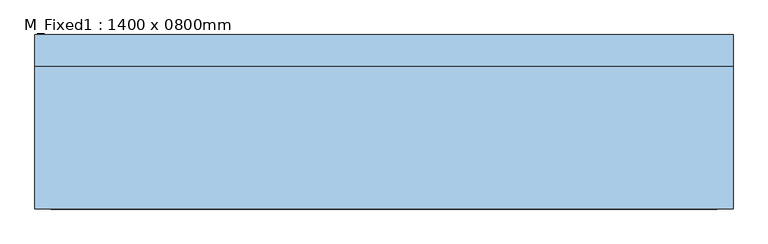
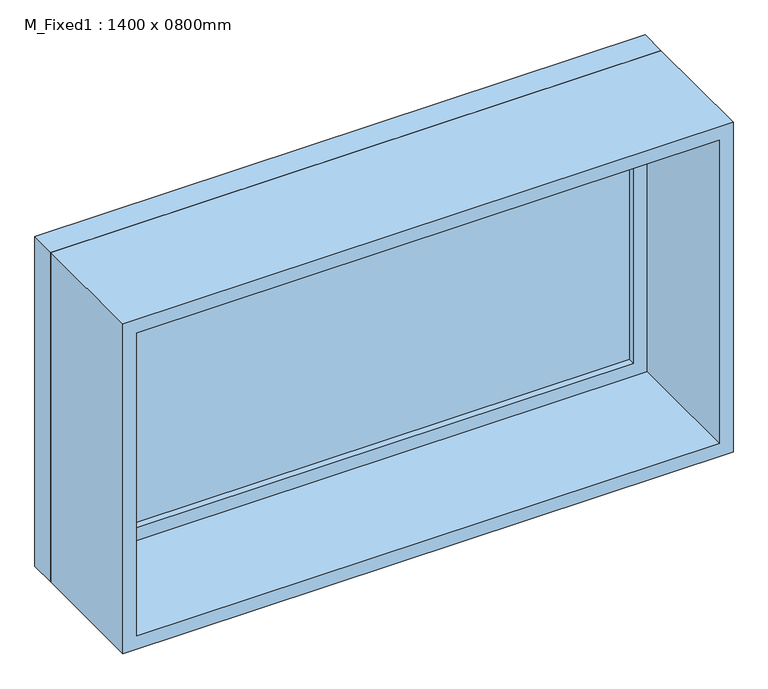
"""IFC4 building model written with IfcOpenShell, lengths in millimetres: window geometry, M_Fixed1 : 1400 x 0800mm."""

from ifc_helpers import new_model, si_unit, frame, origin, place, context, project, spatial, polyline, outline, extrude, source, transform, mapped, element, save


def m_fixed1_1400_x_0800mm_a23a53e8(model_context):
    return source(origin(), model_context, "Body", "SweptSolid", [
        extrude(outline(polyline([(-637.0, 153.0), (637.0, 153.0), (637.0, 141.0), (-637.0, 141.0), (-637.0, 153.0)])), frame((0.0, 0.0, 978.0), z_axis=(0.0, 0.0, 1.0), x_axis=(1.0, 0.0, 0.0)), (0.0, 0.0, 1.0), 674.0),
        extrude(outline(polyline([(1696.0, -681.0), (934.0, -681.0), (934.0, 681.0), (1696.0, 681.0), (1696.0, -681.0)]), holes=[polyline([(1652.0, -637.0), (1652.0, 637.0), (978.0, 637.0), (978.0, -637.0), (1652.0, -637.0)])]), frame((0.0, 125.0, 0.0), z_axis=(0.0, 1.0, 0.0), x_axis=(0.0, 0.0, 1.0)), (0.0, 0.0, 1.0), 44.0),
        extrude(outline(polyline([(1715.0, -700.0), (915.0, -700.0), (915.0, 700.0), (1715.0, 700.0), (1715.0, -700.0)]), holes=[polyline([(1696.0, -681.0), (1696.0, 681.0), (934.0, 681.0), (934.0, -681.0), (1696.0, -681.0)])]), frame((0.0, 125.0, 0.0), z_axis=(0.0, 1.0, 0.0), x_axis=(0.0, 0.0, 1.0)), (0.0, 0.0, 1.0), 63.0),
        extrude(outline(polyline([(1715.0, -700.0), (915.0, -700.0), (915.0, 700.0), (1715.0, 700.0), (1715.0, -700.0)]), holes=[polyline([(1683.0, -668.0), (1683.0, 668.0), (947.0, 668.0), (947.0, -668.0), (1683.0, -668.0)])]), frame((0.0, -162.0, 0.0), z_axis=(0.0, 1.0, 0.0), x_axis=(0.0, 0.0, 1.0)), (0.0, 0.0, 1.0), 287.0),
    ])


if __name__ == "__main__":
    model = new_model("IFC4")
    model_context = context("Model", 3, world=origin())
    ifc_project = project(units=[si_unit("LENGTHUNIT", "METRE", prefix="MILLI")], contexts=[model_context])
    site = spatial("IfcSite", under=ifc_project)
    building = spatial("IfcBuilding", under=site)
    placement = place(None, origin())
    m_fixed1_1400_x_0800mm_shape = m_fixed1_1400_x_0800mm_a23a53e8(model_context)
    element("IfcWindow", 1, ObjectType="M_Fixed1 : 1400 x 0800mm", at=placement, inside=building, context=model_context, shape_type="MappedRepresentation", body=[
        mapped(m_fixed1_1400_x_0800mm_shape, transform((0.0, 0.0, 0.0), x_axis=(1.0, 0.0, 0.0), y_axis=(0.0, 1.0, 0.0), z_axis=(0.0, 0.0, 1.0))),
    ])
    save(model, "model.ifc")
